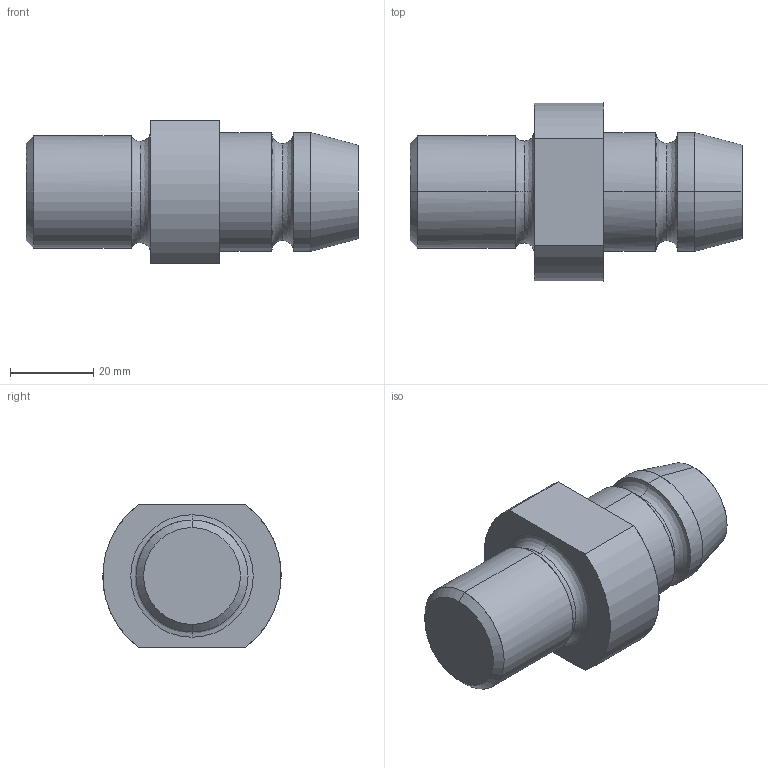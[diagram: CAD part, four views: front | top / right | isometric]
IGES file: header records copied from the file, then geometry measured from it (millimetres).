
Start section: START RECORD GO HERE.
Global section: file name: AGS3421M27.igs; native system: DASSAULT SYSTEMES CATIA V5 R20 - www.3ds.com; preprocessor: CATIA Version 5 Release 20 ; author: Utente; organization: NB04-ASUS; date: 20210221.204345; units: millimetre
Bounding box: 80 x 43 x 34.4 mm (x, y, z)
Surface area: 10133 mm2 (no closed solid volume)
Topology: 0 solids, 0 shells, 26 faces, 140 edges, 140 vertices
Faces by surface type: revolution 20, plane 6
